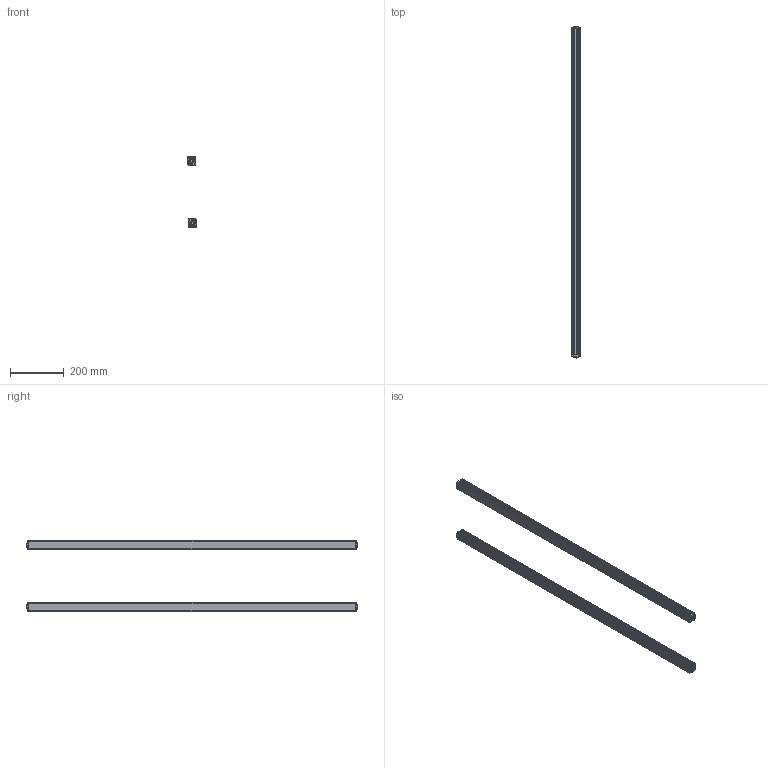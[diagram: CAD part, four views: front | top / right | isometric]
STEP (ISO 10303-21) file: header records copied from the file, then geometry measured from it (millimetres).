
FILE_DESCRIPTION (( 'STEP AP203' ), '1' );
FILE_NAME ('ZDA6020-1210.STEP', '2023-03-23T06:09:14', ( 'User' ), ( 'China' ), 'SwSTEP 2.0', 'SolidWorks 2020', '' );
FILE_SCHEMA (( 'CONFIG_CONTROL_DESIGN' ));
Length unit declared in the file: millimetre
Products named in the file (5): ZDA6020-1210; 錨璃8 - 萵掛 (2); 錨璃8; 錨璃1; 錨璃10
Assembly tree (7 placements, depth 2):
  ZDA6020-1210
    錨璃1  x2
    錨璃8  x2
    錨璃8 - 萵掛 (2)  x2
    錨璃10
Bounding box: 32.26 x 1231.4 x 260.24 mm (x, y, z)
Volume: 723415.6 mm3; surface area: 763512.3 mm2
Topology: 7 solids, 7 shells, 1050 faces, 2738 edges, 1696 vertices
Faces by surface type: plane 468, cylinder 318, cone 120, bspline 64, torus 48, sphere 32
Entity records: 18298 total; most frequent: CARTESIAN_POINT 4907, ORIENTED_EDGE 2726, DIRECTION 2656, EDGE_CURVE 1363, AXIS2_PLACEMENT_3D 906, VERTEX_POINT 852, VECTOR 844, LINE 844
